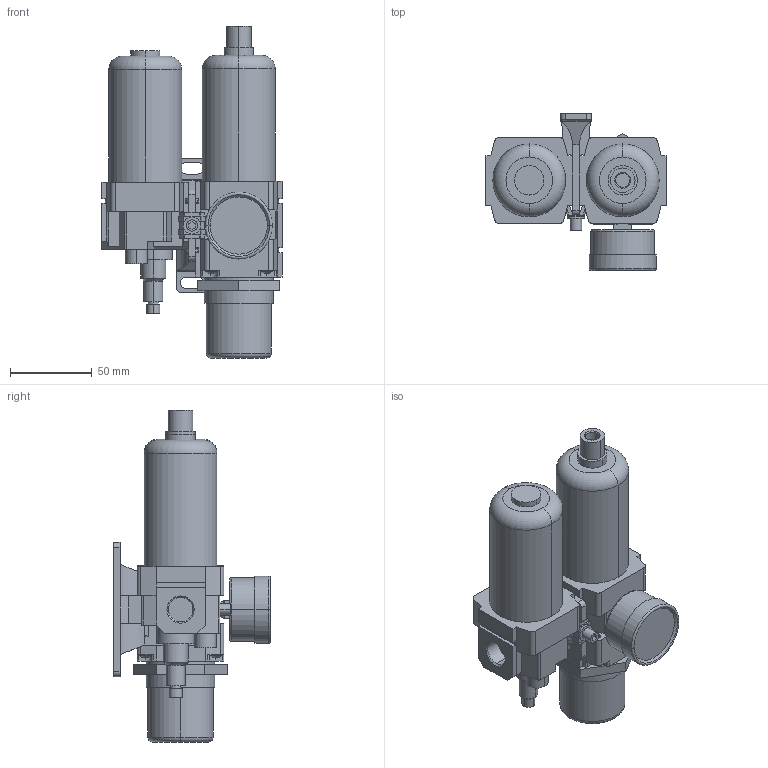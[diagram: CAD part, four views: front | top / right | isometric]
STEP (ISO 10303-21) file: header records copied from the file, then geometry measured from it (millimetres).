
FILE_DESCRIPTION (( 'STEP AP203' ), '1' );
FILE_NAME ('FRL300-03M-D.STEP', '2021-06-30T14:29:48', ( '' ), ( '' ), 'SwSTEP 2.0', 'SolidWorks 2019', '' );
FILE_SCHEMA (( 'CONFIG_CONTROL_DESIGN' ));
Length unit declared in the file: millimetre
Products named in the file (4): FRL300-03M-D; FR300-03M-D; ST-03; L300-03
Assembly tree (3 placements, depth 2):
  FRL300-03M-D
    FR300-03M-D
    L300-03
    ST-03
Bounding box: 110.2 x 96 x 203 mm (x, y, z)
Volume: 589240.9 mm3; surface area: 94989.7 mm2
Topology: 13 solids, 13 shells, 578 faces, 1431 edges, 928 vertices
Faces by surface type: plane 364, cylinder 154, cone 42, torus 10, sphere 8
Entity records: 17782 total; most frequent: CARTESIAN_POINT 3262, DIRECTION 3019, ORIENTED_EDGE 2862, EDGE_CURVE 1431, AXIS2_PLACEMENT_3D 1024, VECTOR 971, LINE 971, VERTEX_POINT 928
